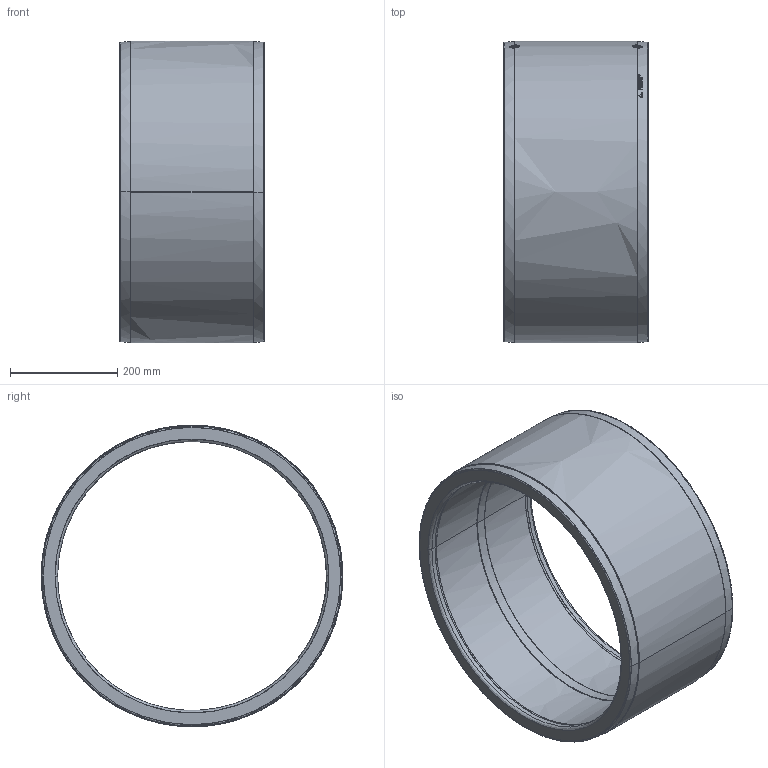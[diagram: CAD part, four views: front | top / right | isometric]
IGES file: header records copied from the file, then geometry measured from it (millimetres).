
Start section:  PTC IGES file: am_d500.igs
Global section: file name: am_d500.igs; native system: Pro/ENGINEER by Parametric Technology Corporation; preprocessor: 2011490; author: mtunjic; organization: Unknown; date: 20130729.162823; units: millimetre
Bounding box: 270 x 562 x 562 mm (x, y, z)
Surface area: 992848.8 mm2 (no closed solid volume)
Topology: 0 solids, 0 shells, 179 faces, 900 edges, 900 vertices
Faces by surface type: bspline 179
